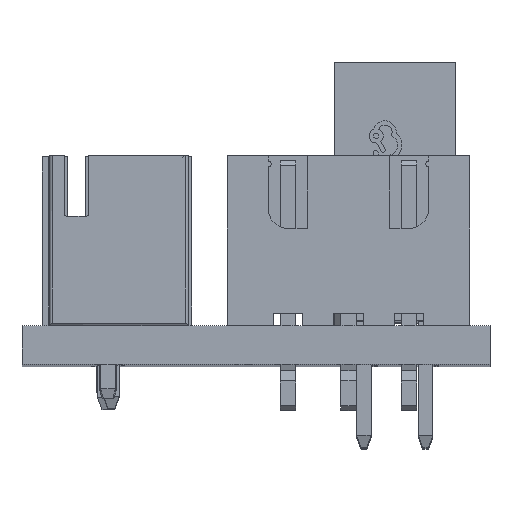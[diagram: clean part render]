
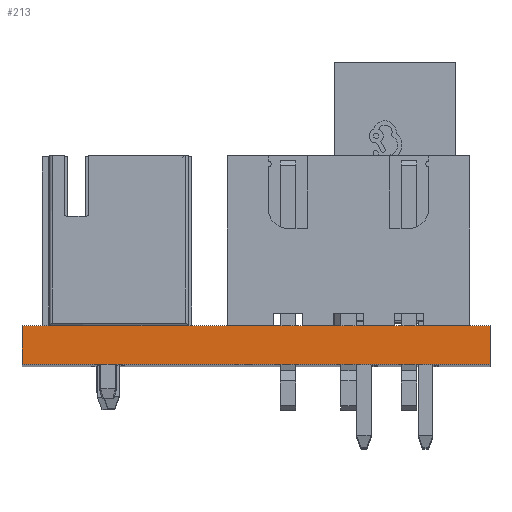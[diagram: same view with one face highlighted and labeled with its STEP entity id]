
A CAD part, top view. The second image highlights one B-rep face of the part: STEP entity #213.
In plain terms, the highlighted planar face has unit normal (0, 0, 1).
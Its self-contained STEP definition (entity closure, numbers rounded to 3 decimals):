
#44 = PLANE('',#45);
#45 = AXIS2_PLACEMENT_3D('',#46,#47,#48);
#46 = CARTESIAN_POINT('',(9.14,0.,-186.745));
#47 = DIRECTION('',(-1.,0.,0.));
#48 = DIRECTION('',(0.,0.,-1.));
#72 = PLANE('',#73);
#73 = AXIS2_PLACEMENT_3D('',#74,#75,#76);
#74 = CARTESIAN_POINT('',(18.779,1.6,-217.529)
  );
#75 = DIRECTION('',(0.,-1.,0.));
#76 = DIRECTION('',(-1.,0.,0.));
#100 = PLANE('',#101);
#101 = AXIS2_PLACEMENT_3D('',#102,#103,#104);
#102 = CARTESIAN_POINT('',(28.418,0.,-248.314));
#103 = DIRECTION('',(1.,0.,0.));
#104 = DIRECTION('',(0.,0.,1.));
#126 = PLANE('',#127);
#127 = AXIS2_PLACEMENT_3D('',#128,#129,#130);
#128 = CARTESIAN_POINT('',(18.779,0.,-217.529));
#129 = DIRECTION('',(0.,-1.,0.));
#130 = DIRECTION('',(-1.,0.,0.));
#143 = VERTEX_POINT('',#144);
#144 = CARTESIAN_POINT('',(28.418,1.6,
    -186.745));
#165 = EDGE_CURVE('',#166,#143,#168,.T.);
#166 = VERTEX_POINT('',#167);
#167 = CARTESIAN_POINT('',(28.418,0.,-186.745));
#168 = SURFACE_CURVE('',#169,(#173,#180),.PCURVE_S1.);
#169 = LINE('',#170,#171);
#170 = CARTESIAN_POINT('',(28.418,0.,-186.745));
#171 = VECTOR('',#172,1.);
#172 = DIRECTION('',(0.,1.,0.));
#173 = PCURVE('',#100,#174);
#174 = DEFINITIONAL_REPRESENTATION('',(#175),#179);
#175 = LINE('',#176,#177);
#176 = CARTESIAN_POINT('',(61.57,0.));
#177 = VECTOR('',#178,1.);
#178 = DIRECTION('',(0.,-1.));
#179 = ( GEOMETRIC_REPRESENTATION_CONTEXT(2) 
PARAMETRIC_REPRESENTATION_CONTEXT() REPRESENTATION_CONTEXT('2D SPACE',''
  ) );
#180 = PCURVE('',#181,#186);
#181 = PLANE('',#182);
#182 = AXIS2_PLACEMENT_3D('',#183,#184,#185);
#183 = CARTESIAN_POINT('',(28.418,0.,-186.745));
#184 = DIRECTION('',(0.,0.,1.));
#185 = DIRECTION('',(-1.,0.,0.));
#186 = DEFINITIONAL_REPRESENTATION('',(#187),#191);
#187 = LINE('',#188,#189);
#188 = CARTESIAN_POINT('',(0.,0.));
#189 = VECTOR('',#190,1.);
#190 = DIRECTION('',(0.,-1.));
#191 = ( GEOMETRIC_REPRESENTATION_CONTEXT(2) 
PARAMETRIC_REPRESENTATION_CONTEXT() REPRESENTATION_CONTEXT('2D SPACE',''
  ) );
#213 = ADVANCED_FACE('',(#214),#181,.T.);
#214 = FACE_BOUND('',#215,.T.);
#215 = EDGE_LOOP('',(#216,#217,#240,#263));
#216 = ORIENTED_EDGE('',*,*,#165,.T.);
#217 = ORIENTED_EDGE('',*,*,#218,.T.);
#218 = EDGE_CURVE('',#143,#219,#221,.T.);
#219 = VERTEX_POINT('',#220);
#220 = CARTESIAN_POINT('',(9.14,1.6,-186.745
    ));
#221 = SURFACE_CURVE('',#222,(#226,#233),.PCURVE_S1.);
#222 = LINE('',#223,#224);
#223 = CARTESIAN_POINT('',(28.418,1.6,
    -186.745));
#224 = VECTOR('',#225,1.);
#225 = DIRECTION('',(-1.,0.,0.));
#226 = PCURVE('',#181,#227);
#227 = DEFINITIONAL_REPRESENTATION('',(#228),#232);
#228 = LINE('',#229,#230);
#229 = CARTESIAN_POINT('',(0.,-1.6));
#230 = VECTOR('',#231,1.);
#231 = DIRECTION('',(1.,0.));
#232 = ( GEOMETRIC_REPRESENTATION_CONTEXT(2) 
PARAMETRIC_REPRESENTATION_CONTEXT() REPRESENTATION_CONTEXT('2D SPACE',''
  ) );
#233 = PCURVE('',#72,#234);
#234 = DEFINITIONAL_REPRESENTATION('',(#235),#239);
#235 = LINE('',#236,#237);
#236 = CARTESIAN_POINT('',(-9.639,-30.785));
#237 = VECTOR('',#238,1.);
#238 = DIRECTION('',(1.,0.));
#239 = ( GEOMETRIC_REPRESENTATION_CONTEXT(2) 
PARAMETRIC_REPRESENTATION_CONTEXT() REPRESENTATION_CONTEXT('2D SPACE',''
  ) );
#240 = ORIENTED_EDGE('',*,*,#241,.F.);
#241 = EDGE_CURVE('',#242,#219,#244,.T.);
#242 = VERTEX_POINT('',#243);
#243 = CARTESIAN_POINT('',(9.14,0.,-186.745));
#244 = SURFACE_CURVE('',#245,(#249,#256),.PCURVE_S1.);
#245 = LINE('',#246,#247);
#246 = CARTESIAN_POINT('',(9.14,0.,-186.745));
#247 = VECTOR('',#248,1.);
#248 = DIRECTION('',(0.,1.,0.));
#249 = PCURVE('',#181,#250);
#250 = DEFINITIONAL_REPRESENTATION('',(#251),#255);
#251 = LINE('',#252,#253);
#252 = CARTESIAN_POINT('',(19.279,0.));
#253 = VECTOR('',#254,1.);
#254 = DIRECTION('',(0.,-1.));
#255 = ( GEOMETRIC_REPRESENTATION_CONTEXT(2) 
PARAMETRIC_REPRESENTATION_CONTEXT() REPRESENTATION_CONTEXT('2D SPACE',''
  ) );
#256 = PCURVE('',#44,#257);
#257 = DEFINITIONAL_REPRESENTATION('',(#258),#262);
#258 = LINE('',#259,#260);
#259 = CARTESIAN_POINT('',(0.,0.));
#260 = VECTOR('',#261,1.);
#261 = DIRECTION('',(0.,-1.));
#262 = ( GEOMETRIC_REPRESENTATION_CONTEXT(2) 
PARAMETRIC_REPRESENTATION_CONTEXT() REPRESENTATION_CONTEXT('2D SPACE',''
  ) );
#263 = ORIENTED_EDGE('',*,*,#264,.F.);
#264 = EDGE_CURVE('',#166,#242,#265,.T.);
#265 = SURFACE_CURVE('',#266,(#270,#277),.PCURVE_S1.);
#266 = LINE('',#267,#268);
#267 = CARTESIAN_POINT('',(28.418,0.,-186.745));
#268 = VECTOR('',#269,1.);
#269 = DIRECTION('',(-1.,0.,0.));
#270 = PCURVE('',#181,#271);
#271 = DEFINITIONAL_REPRESENTATION('',(#272),#276);
#272 = LINE('',#273,#274);
#273 = CARTESIAN_POINT('',(0.,0.));
#274 = VECTOR('',#275,1.);
#275 = DIRECTION('',(1.,0.));
#276 = ( GEOMETRIC_REPRESENTATION_CONTEXT(2) 
PARAMETRIC_REPRESENTATION_CONTEXT() REPRESENTATION_CONTEXT('2D SPACE',''
  ) );
#277 = PCURVE('',#126,#278);
#278 = DEFINITIONAL_REPRESENTATION('',(#279),#283);
#279 = LINE('',#280,#281);
#280 = CARTESIAN_POINT('',(-9.639,-30.785));
#281 = VECTOR('',#282,1.);
#282 = DIRECTION('',(1.,0.));
#283 = ( GEOMETRIC_REPRESENTATION_CONTEXT(2) 
PARAMETRIC_REPRESENTATION_CONTEXT() REPRESENTATION_CONTEXT('2D SPACE',''
  ) );
